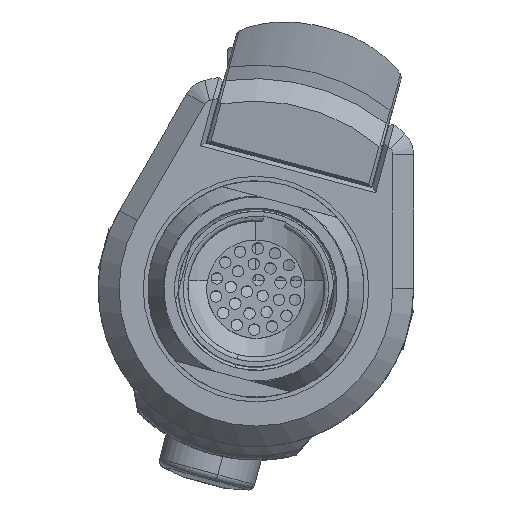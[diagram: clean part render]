
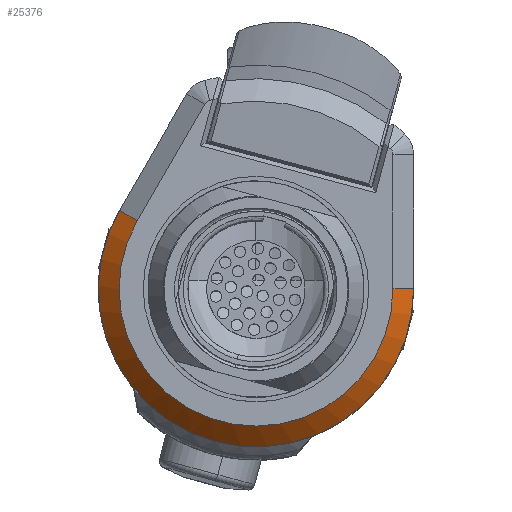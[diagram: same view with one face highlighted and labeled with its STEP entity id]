
A CAD part, top view. The second image highlights one B-rep face of the part: STEP entity #25376.
In plain terms, the highlighted conical face has half-angle 45 degrees and reference radius 17.462 mm.
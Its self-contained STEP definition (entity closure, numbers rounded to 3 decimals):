
#497 = DIRECTION ( 'NONE',  ( 0.259, 0.966, 0. ) ) ;
#836 = CONICAL_SURFACE ( 'NONE', #36199, 17.462, 0.785 ) ;
#1007 = EDGE_CURVE ( 'NONE', #27081, #21748, #32393, .T. ) ;
#1884 = EDGE_CURVE ( 'NONE', #31703, #24702, #13276, .T. ) ;
#3474 = CARTESIAN_POINT ( 'NONE',  ( -15.123, 8.731, 94.859 ) ) ;
#3950 = DIRECTION ( 'NONE',  ( 0., 0., -1. ) ) ;
#4012 = DIRECTION ( 'NONE',  ( 0.612, -0.354, 0.707 ) ) ;
#7831 = ORIENTED_EDGE ( 'NONE', *, *, #35033, .F. ) ;
#8447 = DIRECTION ( 'NONE',  ( 0.259, 0.966, 0. ) ) ;
#9350 = CARTESIAN_POINT ( 'NONE',  ( 16.7, 0.067, 95.621 ) ) ;
#9550 = CARTESIAN_POINT ( 'NONE',  ( 15.938, 0.066, 96.383 ) ) ;
#9897 = EDGE_CURVE ( 'NONE', #27081, #22231, #23105, .T. ) ;
#10079 = EDGE_CURVE ( 'NONE', #24702, #22231, #37355, .T. ) ;
#10510 = AXIS2_PLACEMENT_3D ( 'NONE', #28019, #19889, #18938 ) ;
#11583 = AXIS2_PLACEMENT_3D ( 'NONE', #32150, #3950, #34564 ) ;
#12692 = CARTESIAN_POINT ( 'NONE',  ( -13.143, 7.588, 97.145 ) ) ;
#13276 = LINE ( 'NONE', #25599, #24797 ) ;
#14159 = ORIENTED_EDGE ( 'NONE', *, *, #9897, .T. ) ;
#15808 = CARTESIAN_POINT ( 'NONE',  ( 0., 0., 97.145 ) ) ;
#16791 = ORIENTED_EDGE ( 'NONE', *, *, #1884, .F. ) ;
#17726 = CARTESIAN_POINT ( 'NONE',  ( 0., 0., 94.859 ) ) ;
#18938 = DIRECTION ( 'NONE',  ( 0.259, 0.966, 0. ) ) ;
#19889 = DIRECTION ( 'NONE',  ( 0., 0., -1. ) ) ;
#20002 = AXIS2_PLACEMENT_3D ( 'NONE', #15808, #28113, #497 ) ;
#21748 = VERTEX_POINT ( 'NONE', #33277 ) ;
#22231 = VERTEX_POINT ( 'NONE', #32429 ) ;
#23105 = B_SPLINE_CURVE_WITH_KNOTS ( 'NONE', 3,
 ( #24910, #9350, #9550, #28508 ),
 .UNSPECIFIED., .F., .F.,
 ( 4, 4 ),
 ( 0., 0.003 ),
 .UNSPECIFIED. ) ;
#24702 = VERTEX_POINT ( 'NONE', #12692 ) ;
#24797 = VECTOR ( 'NONE', #4012, 1000. ) ;
#24910 = CARTESIAN_POINT ( 'NONE',  ( 17.462, 0.069, 94.859 ) ) ;
#25376 = ADVANCED_FACE ( 'NONE', ( #29999 ), #836, .T. ) ;
#25599 = CARTESIAN_POINT ( 'NONE',  ( -15.123, 8.731, 94.859 ) ) ;
#26413 = DIRECTION ( 'NONE',  ( 0., 0., -1. ) ) ;
#27081 = VERTEX_POINT ( 'NONE', #29071 ) ;
#28019 = CARTESIAN_POINT ( 'NONE',  ( 0., 0., 94.859 ) ) ;
#28113 = DIRECTION ( 'NONE',  ( 0., 0., 1. ) ) ;
#28508 = CARTESIAN_POINT ( 'NONE',  ( 15.176, 0.064, 97.145 ) ) ;
#29071 = CARTESIAN_POINT ( 'NONE',  ( 17.462, 0.069, 94.859 ) ) ;
#29999 = FACE_OUTER_BOUND ( 'NONE', #37236, .T. ) ;
#31546 = CIRCLE ( 'NONE', #11583, 17.462 ) ;
#31703 = VERTEX_POINT ( 'NONE', #3474 ) ;
#32150 = CARTESIAN_POINT ( 'NONE',  ( 0., 0., 94.859 ) ) ;
#32393 = CIRCLE ( 'NONE', #10510, 17.462 ) ;
#32429 = CARTESIAN_POINT ( 'NONE',  ( 15.176, 0.064, 97.145 ) ) ;
#32766 = ORIENTED_EDGE ( 'NONE', *, *, #10079, .F. ) ;
#33277 = CARTESIAN_POINT ( 'NONE',  ( -4.52, -16.867, 94.859 ) ) ;
#34564 = DIRECTION ( 'NONE',  ( 0.259, 0.966, 0. ) ) ;
#35033 = EDGE_CURVE ( 'NONE', #21748, #31703, #31546, .T. ) ;
#36199 = AXIS2_PLACEMENT_3D ( 'NONE', #17726, #26413, #8447 ) ;
#37236 = EDGE_LOOP ( 'NONE', ( #14159, #32766, #16791, #7831, #38221 ) ) ;
#37355 = CIRCLE ( 'NONE', #20002, 15.176 ) ;
#38221 = ORIENTED_EDGE ( 'NONE', *, *, #1007, .F. ) ;
